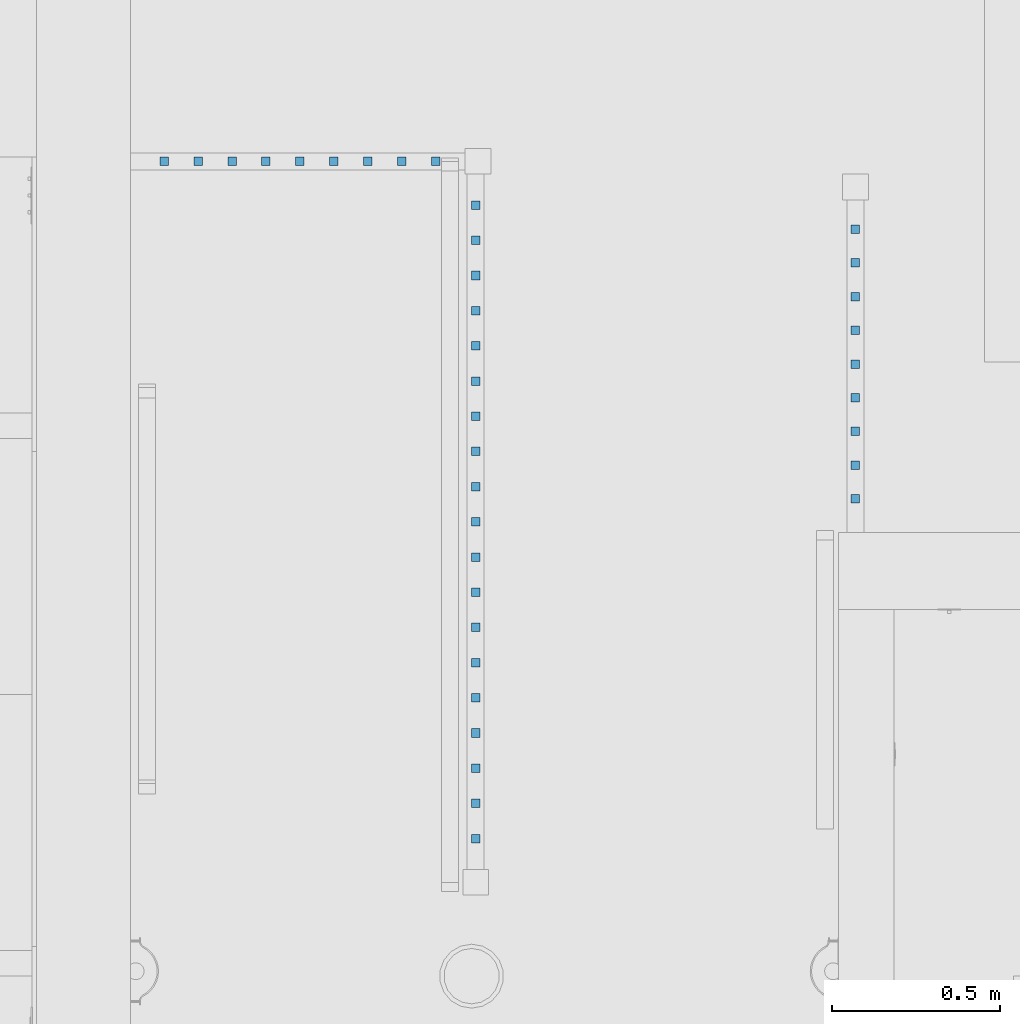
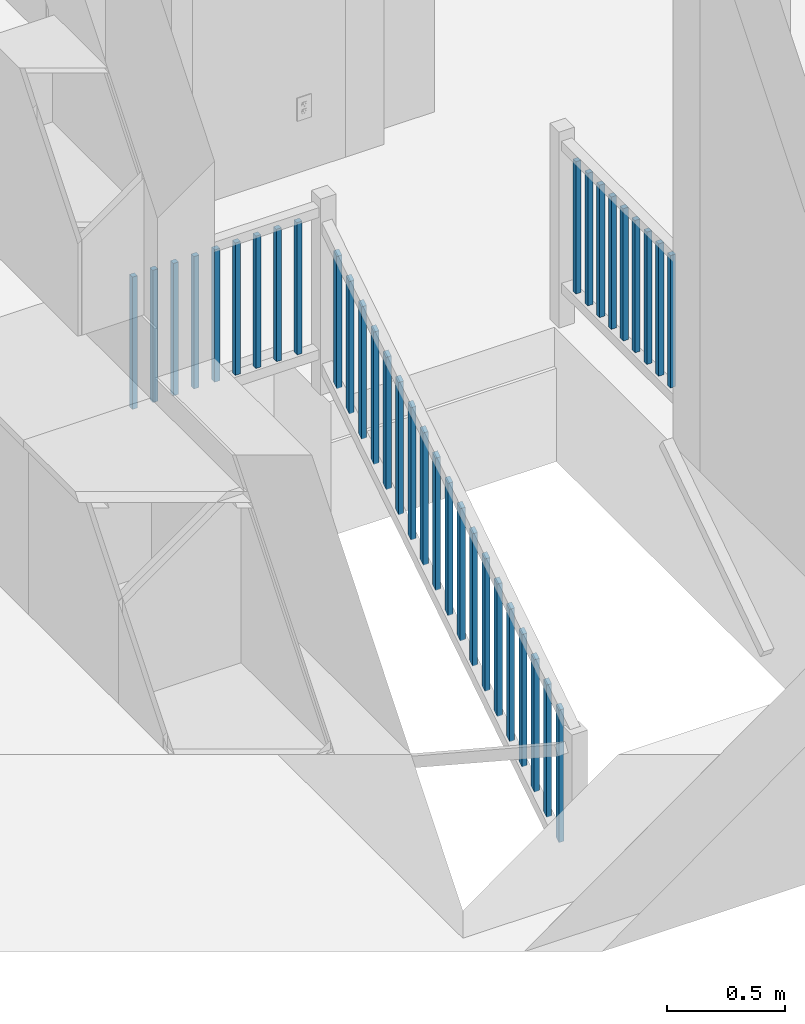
# One storey, part 7 of 103: 37 building element parts, 3 elements without a shape of their own.
"""IFC2X3 building model written with IfcOpenShell, lengths in inches."""

from ifc_helpers import new_model, entity, si_unit, converted_unit, derived_unit, money_unit, direction, frame, origin_with_axes, place, context, subcontext, project, spatial, faceted_brep, material, type_object, element, aggregate, save


model = new_model("IFC2X3")

# Units and contexts
model_context = context("Model", 3, precision=0.00039370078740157, world=origin_with_axes(), true_north=direction((0.0, 1.0)))
plan_context = context("Plan", 3, precision=0.00039370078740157, world=origin_with_axes(), true_north=direction((0.0, 1.0)))
body_context = subcontext(model_context, "Body", "Model", "MODEL_VIEW")
ifc_project = project(units=[converted_unit("LENGTHUNIT", "INCH", entity("IfcPositiveLengthMeasure", 0.0254), si_unit("LENGTHUNIT", "METRE"), dimensions=[1, 0, 0, 0, 0, 0, 0]), converted_unit("AREAUNIT", "SQUARE_FOOT", entity("IfcPositiveLengthMeasure", 0.09290304), si_unit("AREAUNIT", "SQUARE_METRE"), dimensions=[2, 0, 0, 0, 0, 0, 0]), si_unit("PLANEANGLEUNIT", "RADIAN"), si_unit("SOLIDANGLEUNIT", "STERADIAN"), money_unit("USD"), converted_unit("TIMEUNIT", "Year", entity("IfcTimeMeasure", 31557600.0), si_unit("TIMEUNIT", "SECOND"), dimensions=[0, 0, 1, 0, 0, 0, 0]), si_unit("MASSUNIT", "GRAM", prefix="KILO"), si_unit("THERMODYNAMICTEMPERATUREUNIT", "DEGREE_CELSIUS"), si_unit("LUMINOUSINTENSITYUNIT", "LUMEN"), si_unit("ENERGYUNIT", "JOULE", prefix="MEGA"), derived_unit("SPECIFICHEATCAPACITYUNIT", [(si_unit("ENERGYUNIT", "JOULE"), 1), (si_unit("MASSUNIT", "GRAM", prefix="KILO"), -1), (si_unit("THERMODYNAMICTEMPERATUREUNIT", "KELVIN"), -1)])], contexts=[model_context, plan_context])

# Site, building, storey
site_placement = place(None, origin_with_axes())
site = spatial("IfcSite", under=ifc_project, at=site_placement, Name="Site", CompositionType="ELEMENT")
building_placement = place(site_placement, origin_with_axes())
building = spatial("IfcBuilding", under=site, at=building_placement, Name="Building", CompositionType="ELEMENT")
storey_placement = place(building_placement, frame((0.0, 0.0, 127.9999999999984), z_axis=(0.0, 0.0, 1.0), x_axis=(1.0, 0.0, 0.0)))
storey = spatial("IfcBuildingStorey", under=building, at=storey_placement, Name="Second Floor", CompositionType="ELEMENT", Elevation=128.0)

# Proxy, building element parts
building_element_proxy_type = type_object("IfcBuildingElementProxyType", Name="Railing Type", PredefinedType="NOTDEFINED")
proxy_1_placement = place(storey_placement, frame((161.4999999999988, 129.9999999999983, 0.0), z_axis=(0.0, 0.0, 1.0), x_axis=(1.0, 0.0, 0.0)))
proxy_1 = element("IfcBuildingElementProxy", 1, at=proxy_1_placement, inside=storey, type_object=building_element_proxy_type, Name="RA-07")
ifc_material = material(Name="Wood - Trim")
building_element_part_1_placement = place(proxy_1_placement, origin_with_axes())
building_element_part_1 = element("IfcBuildingElementPart", 2, at=building_element_part_1_placement, material=ifc_material, Name="Wood - Trim", context=body_context, shape_type="Brep", body=[
    faceted_brep([(4.474999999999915, 1.499999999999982, 8.999999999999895), (4.474999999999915, 2.499999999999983, 8.999999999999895), (4.474999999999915, 2.499999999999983, 35.99999999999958), (4.474999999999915, 1.499999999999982, 35.99999999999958), (3.47499999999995, 1.499999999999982, 8.999999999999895), (3.47499999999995, 2.499999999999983, 8.999999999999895), (3.47499999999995, 2.499999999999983, 35.99999999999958), (3.47499999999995, 1.499999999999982, 35.99999999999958)], [[[0, 1, 2, 3]], [[0, 4, 5, 1]], [[1, 5, 6, 2]], [[3, 2, 6, 7]], [[4, 0, 3, 7]], [[5, 4, 7, 6]]]),
])
building_element_part_2_placement = place(proxy_1_placement, origin_with_axes())
building_element_part_2 = element("IfcBuildingElementPart", 3, at=building_element_part_2_placement, material=ifc_material, Name="Wood - Trim", context=body_context, shape_type="Brep", body=[
    faceted_brep([(8.449999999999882, 1.499999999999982, 8.999999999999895), (8.449999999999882, 2.499999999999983, 8.999999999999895), (8.449999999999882, 2.499999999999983, 35.99999999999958), (8.449999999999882, 1.499999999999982, 35.99999999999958), (7.449999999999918, 1.499999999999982, 8.999999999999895), (7.449999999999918, 2.499999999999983, 8.999999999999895), (7.449999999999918, 2.499999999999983, 35.99999999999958), (7.449999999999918, 1.499999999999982, 35.99999999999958)], [[[0, 1, 2, 3]], [[0, 4, 5, 1]], [[1, 5, 6, 2]], [[3, 2, 6, 7]], [[4, 0, 3, 7]], [[5, 4, 7, 6]]]),
])
building_element_part_3_placement = place(proxy_1_placement, origin_with_axes())
building_element_part_3 = element("IfcBuildingElementPart", 4, at=building_element_part_3_placement, material=ifc_material, Name="Wood - Trim", context=body_context, shape_type="Brep", body=[
    faceted_brep([(12.42499999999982, 1.499999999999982, 8.999999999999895), (12.42499999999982, 2.499999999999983, 8.999999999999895), (12.42499999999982, 2.499999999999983, 35.99999999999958), (12.42499999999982, 1.499999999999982, 35.99999999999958), (11.42499999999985, 1.499999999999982, 8.999999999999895), (11.42499999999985, 2.499999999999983, 8.999999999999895), (11.42499999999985, 2.499999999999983, 35.99999999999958), (11.42499999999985, 1.499999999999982, 35.99999999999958)], [[[0, 1, 2, 3]], [[0, 4, 5, 1]], [[1, 5, 6, 2]], [[3, 2, 6, 7]], [[4, 0, 3, 7]], [[5, 4, 7, 6]]]),
])
building_element_part_4_placement = place(proxy_1_placement, origin_with_axes())
building_element_part_4 = element("IfcBuildingElementPart", 5, at=building_element_part_4_placement, material=ifc_material, Name="Wood - Trim", context=body_context, shape_type="Brep", body=[
    faceted_brep([(16.39999999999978, 1.499999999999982, 8.999999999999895), (16.39999999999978, 2.499999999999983, 8.999999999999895), (16.39999999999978, 2.499999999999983, 35.99999999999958), (16.39999999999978, 1.499999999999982, 35.99999999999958), (15.39999999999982, 1.499999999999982, 8.999999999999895), (15.39999999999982, 2.499999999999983, 8.999999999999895), (15.39999999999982, 2.499999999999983, 35.99999999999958), (15.39999999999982, 1.499999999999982, 35.99999999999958)], [[[0, 1, 2, 3]], [[0, 4, 5, 1]], [[1, 5, 6, 2]], [[3, 2, 6, 7]], [[4, 0, 3, 7]], [[5, 4, 7, 6]]]),
])
building_element_part_5_placement = place(proxy_1_placement, origin_with_axes())
building_element_part_5 = element("IfcBuildingElementPart", 6, at=building_element_part_5_placement, material=ifc_material, Name="Wood - Trim", context=body_context, shape_type="Brep", body=[
    faceted_brep([(20.37499999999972, 1.499999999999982, 8.999999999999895), (20.37499999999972, 2.499999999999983, 8.999999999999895), (20.37499999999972, 2.499999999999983, 35.99999999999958), (20.37499999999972, 1.499999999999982, 35.99999999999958), (19.37499999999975, 1.499999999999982, 8.999999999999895), (19.37499999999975, 2.499999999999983, 8.999999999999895), (19.37499999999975, 2.499999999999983, 35.99999999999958), (19.37499999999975, 1.499999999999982, 35.99999999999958)], [[[0, 1, 2, 3]], [[0, 4, 5, 1]], [[1, 5, 6, 2]], [[3, 2, 6, 7]], [[4, 0, 3, 7]], [[5, 4, 7, 6]]]),
])
building_element_part_6_placement = place(proxy_1_placement, origin_with_axes())
building_element_part_6 = element("IfcBuildingElementPart", 7, at=building_element_part_6_placement, material=ifc_material, Name="Wood - Trim", context=body_context, shape_type="Brep", body=[
    faceted_brep([(24.34999999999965, 1.499999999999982, 8.999999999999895), (24.34999999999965, 2.499999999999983, 8.999999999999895), (24.34999999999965, 2.499999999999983, 35.99999999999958), (24.34999999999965, 1.499999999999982, 35.99999999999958), (23.34999999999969, 1.499999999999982, 8.999999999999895), (23.34999999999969, 2.499999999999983, 8.999999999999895), (23.34999999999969, 2.499999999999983, 35.99999999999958), (23.34999999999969, 1.499999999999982, 35.99999999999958)], [[[0, 1, 2, 3]], [[0, 4, 5, 1]], [[1, 5, 6, 2]], [[3, 2, 6, 7]], [[4, 0, 3, 7]], [[5, 4, 7, 6]]]),
])
building_element_part_7_placement = place(proxy_1_placement, origin_with_axes())
building_element_part_7 = element("IfcBuildingElementPart", 8, at=building_element_part_7_placement, material=ifc_material, Name="Wood - Trim", context=body_context, shape_type="Brep", body=[
    faceted_brep([(28.32499999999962, 1.499999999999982, 8.999999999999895), (28.32499999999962, 2.499999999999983, 8.999999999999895), (28.32499999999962, 2.499999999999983, 35.99999999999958), (28.32499999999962, 1.499999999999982, 35.99999999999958), (27.32499999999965, 1.499999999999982, 8.999999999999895), (27.32499999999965, 2.499999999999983, 8.999999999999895), (27.32499999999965, 2.499999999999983, 35.99999999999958), (27.32499999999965, 1.499999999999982, 35.99999999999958)], [[[0, 1, 2, 3]], [[0, 4, 5, 1]], [[1, 5, 6, 2]], [[3, 2, 6, 7]], [[4, 0, 3, 7]], [[5, 4, 7, 6]]]),
])
building_element_part_8_placement = place(proxy_1_placement, origin_with_axes())
building_element_part_8 = element("IfcBuildingElementPart", 9, at=building_element_part_8_placement, material=ifc_material, Name="Wood - Trim", context=body_context, shape_type="Brep", body=[
    faceted_brep([(32.29999999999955, 1.499999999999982, 8.999999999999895), (32.29999999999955, 2.499999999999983, 8.999999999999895), (32.29999999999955, 2.499999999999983, 35.99999999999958), (32.29999999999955, 1.499999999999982, 35.99999999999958), (31.29999999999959, 1.499999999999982, 8.999999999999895), (31.29999999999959, 2.499999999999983, 8.999999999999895), (31.29999999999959, 2.499999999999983, 35.99999999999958), (31.29999999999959, 1.499999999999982, 35.99999999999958)], [[[0, 1, 2, 3]], [[0, 4, 5, 1]], [[1, 5, 6, 2]], [[3, 2, 6, 7]], [[4, 0, 3, 7]], [[5, 4, 7, 6]]]),
])
building_element_part_9_placement = place(proxy_1_placement, origin_with_axes())
building_element_part_9 = element("IfcBuildingElementPart", 10, at=building_element_part_9_placement, material=ifc_material, Name="Wood - Trim", context=body_context, shape_type="Brep", body=[
    faceted_brep([(36.27499999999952, 1.499999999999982, 8.999999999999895), (36.27499999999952, 2.499999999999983, 8.999999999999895), (36.27499999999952, 2.499999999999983, 35.99999999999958), (36.27499999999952, 1.499999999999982, 35.99999999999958), (35.27499999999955, 1.499999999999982, 8.999999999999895), (35.27499999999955, 2.499999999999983, 8.999999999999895), (35.27499999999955, 2.499999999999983, 35.99999999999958), (35.27499999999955, 1.499999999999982, 35.99999999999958)], [[[0, 1, 2, 3]], [[0, 4, 5, 1]], [[1, 5, 6, 2]], [[3, 2, 6, 7]], [[4, 0, 3, 7]], [[5, 4, 7, 6]]]),
])
aggregate(proxy_1, [building_element_part_1, building_element_part_2, building_element_part_3, building_element_part_4, building_element_part_5, building_element_part_6, building_element_part_7, building_element_part_8, building_element_part_9])

proxy_2_placement = place(storey_placement, frame((199.9703548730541, 131.4643714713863, -55.99999999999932), z_axis=(0.0, 0.0, 1.0), x_axis=(0.0, -1.0, 0.0)))
proxy_2 = element("IfcBuildingElementProxy", 11, at=proxy_2_placement, inside=storey, type_object=building_element_proxy_type, Name="RA-07")
building_element_part_10_placement = place(proxy_2_placement, origin_with_axes())
building_element_part_10 = element("IfcBuildingElementPart", 12, at=building_element_part_10_placement, material=ifc_material, Name="Wood - Trim", context=body_context, shape_type="Brep", body=[
    faceted_brep([(5.088670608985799, 1.499999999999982, 59.53667919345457), (5.088670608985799, 2.499999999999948, 59.53667919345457), (5.088670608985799, 2.499999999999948, 86.53667919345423), (5.088670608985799, 1.499999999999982, 86.53667919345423), (4.088670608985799, 1.499999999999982, 60.17739209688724), (4.088670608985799, 2.499999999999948, 60.17739209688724), (4.088670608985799, 2.499999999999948, 87.1773920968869), (4.088670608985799, 1.499999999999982, 87.1773920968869)], [[[0, 1, 2, 3]], [[0, 4, 5, 1]], [[1, 5, 6, 2]], [[3, 2, 6, 7]], [[4, 0, 3, 7]], [[5, 4, 7, 6]]]),
])
building_element_part_11_placement = place(proxy_2_placement, origin_with_axes())
building_element_part_11 = element("IfcBuildingElementPart", 13, at=building_element_part_11_placement, material=ifc_material, Name="Wood - Trim", context=body_context, shape_type="Brep", body=[
    faceted_brep([(9.213707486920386, 1.499999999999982, 56.89371483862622), (9.213707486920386, 2.499999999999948, 56.89371483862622), (9.213707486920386, 2.499999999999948, 83.8937148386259), (9.213707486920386, 1.499999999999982, 83.8937148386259), (8.213707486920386, 1.499999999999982, 57.5344277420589), (8.213707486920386, 2.499999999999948, 57.5344277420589), (8.213707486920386, 2.499999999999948, 84.53442774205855), (8.213707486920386, 1.499999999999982, 84.53442774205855)], [[[0, 1, 2, 3]], [[0, 4, 5, 1]], [[1, 5, 6, 2]], [[3, 2, 6, 7]], [[4, 0, 3, 7]], [[5, 4, 7, 6]]]),
])
building_element_part_12_placement = place(proxy_2_placement, origin_with_axes())
building_element_part_12 = element("IfcBuildingElementPart", 14, at=building_element_part_12_placement, material=ifc_material, Name="Wood - Trim", context=body_context, shape_type="Brep", body=[
    faceted_brep([(13.33874436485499, 1.499999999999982, 54.2507504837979), (13.33874436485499, 2.499999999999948, 54.2507504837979), (13.33874436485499, 2.499999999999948, 81.25075048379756), (13.33874436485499, 1.499999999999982, 81.25075048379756), (12.33874436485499, 1.499999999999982, 54.89146338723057), (12.33874436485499, 2.499999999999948, 54.89146338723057), (12.33874436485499, 2.499999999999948, 81.89146338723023), (12.33874436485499, 1.499999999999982, 81.89146338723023)], [[[0, 1, 2, 3]], [[0, 4, 5, 1]], [[1, 5, 6, 2]], [[3, 2, 6, 7]], [[4, 0, 3, 7]], [[5, 4, 7, 6]]]),
])
building_element_part_13_placement = place(proxy_2_placement, origin_with_axes())
building_element_part_13 = element("IfcBuildingElementPart", 15, at=building_element_part_13_placement, material=ifc_material, Name="Wood - Trim", context=body_context, shape_type="Brep", body=[
    faceted_brep([(17.46378124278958, 1.499999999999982, 51.60778612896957), (17.46378124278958, 2.499999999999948, 51.60778612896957), (17.46378124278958, 2.499999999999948, 78.60778612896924), (17.46378124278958, 1.499999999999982, 78.60778612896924), (16.46378124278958, 1.499999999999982, 52.24849903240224), (16.46378124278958, 2.499999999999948, 52.24849903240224), (16.46378124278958, 2.499999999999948, 79.24849903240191), (16.46378124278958, 1.499999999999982, 79.24849903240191)], [[[0, 1, 2, 3]], [[0, 4, 5, 1]], [[1, 5, 6, 2]], [[3, 2, 6, 7]], [[4, 0, 3, 7]], [[5, 4, 7, 6]]]),
])
building_element_part_14_placement = place(proxy_2_placement, origin_with_axes())
building_element_part_14 = element("IfcBuildingElementPart", 16, at=building_element_part_14_placement, material=ifc_material, Name="Wood - Trim", context=body_context, shape_type="Brep", body=[
    faceted_brep([(21.58881812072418, 1.499999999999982, 48.96482177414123), (21.58881812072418, 2.499999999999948, 48.96482177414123), (21.58881812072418, 2.499999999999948, 75.96482177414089), (21.58881812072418, 1.499999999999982, 75.96482177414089), (20.58881812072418, 1.499999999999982, 49.60553467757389), (20.58881812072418, 2.499999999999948, 49.60553467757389), (20.58881812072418, 2.499999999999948, 76.60553467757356), (20.58881812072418, 1.499999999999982, 76.60553467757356)], [[[0, 1, 2, 3]], [[0, 4, 5, 1]], [[1, 5, 6, 2]], [[3, 2, 6, 7]], [[4, 0, 3, 7]], [[5, 4, 7, 6]]]),
])
building_element_part_15_placement = place(proxy_2_placement, origin_with_axes())
building_element_part_15 = element("IfcBuildingElementPart", 17, at=building_element_part_15_placement, material=ifc_material, Name="Wood - Trim", context=body_context, shape_type="Brep", body=[
    faceted_brep([(25.71385499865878, 1.499999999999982, 46.3218574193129), (25.71385499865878, 2.499999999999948, 46.3218574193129), (25.71385499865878, 2.499999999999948, 73.32185741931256), (25.71385499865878, 1.499999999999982, 73.32185741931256), (24.71385499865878, 1.499999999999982, 46.96257032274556), (24.71385499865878, 2.499999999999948, 46.96257032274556), (24.71385499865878, 2.499999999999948, 73.96257032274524), (24.71385499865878, 1.499999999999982, 73.96257032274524)], [[[0, 1, 2, 3]], [[0, 4, 5, 1]], [[1, 5, 6, 2]], [[3, 2, 6, 7]], [[4, 0, 3, 7]], [[5, 4, 7, 6]]]),
])
building_element_part_16_placement = place(proxy_2_placement, origin_with_axes())
building_element_part_16 = element("IfcBuildingElementPart", 18, at=building_element_part_16_placement, material=ifc_material, Name="Wood - Trim", context=body_context, shape_type="Brep", body=[
    faceted_brep([(29.83889187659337, 1.499999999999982, 43.67889306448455), (29.83889187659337, 2.499999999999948, 43.67889306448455), (29.83889187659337, 2.499999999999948, 70.67889306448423), (29.83889187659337, 1.499999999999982, 70.67889306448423), (28.83889187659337, 1.499999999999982, 44.31960596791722), (28.83889187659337, 2.499999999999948, 44.31960596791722), (28.83889187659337, 2.499999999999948, 71.31960596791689), (28.83889187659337, 1.499999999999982, 71.31960596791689)], [[[0, 1, 2, 3]], [[0, 4, 5, 1]], [[1, 5, 6, 2]], [[3, 2, 6, 7]], [[4, 0, 3, 7]], [[5, 4, 7, 6]]]),
])
building_element_part_17_placement = place(proxy_2_placement, origin_with_axes())
building_element_part_17 = element("IfcBuildingElementPart", 19, at=building_element_part_17_placement, material=ifc_material, Name="Wood - Trim", context=body_context, shape_type="Brep", body=[
    faceted_brep([(33.96392875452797, 1.499999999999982, 41.03592870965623), (33.96392875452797, 2.499999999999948, 41.03592870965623), (33.96392875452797, 2.499999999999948, 68.03592870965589), (33.96392875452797, 1.499999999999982, 68.03592870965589), (32.96392875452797, 1.499999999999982, 41.6766416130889), (32.96392875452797, 2.499999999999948, 41.6766416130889), (32.96392875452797, 2.499999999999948, 68.67664161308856), (32.96392875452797, 1.499999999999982, 68.67664161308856)], [[[0, 1, 2, 3]], [[0, 4, 5, 1]], [[1, 5, 6, 2]], [[3, 2, 6, 7]], [[4, 0, 3, 7]], [[5, 4, 7, 6]]]),
])
building_element_part_18_placement = place(proxy_2_placement, origin_with_axes())
building_element_part_18 = element("IfcBuildingElementPart", 20, at=building_element_part_18_placement, material=ifc_material, Name="Wood - Trim", context=body_context, shape_type="Brep", body=[
    faceted_brep([(38.08896563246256, 1.500000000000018, 38.3929643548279), (38.08896563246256, 2.499999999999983, 38.3929643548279), (38.08896563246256, 2.499999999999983, 65.39296435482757), (38.08896563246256, 1.500000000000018, 65.39296435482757), (37.08896563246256, 1.500000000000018, 39.03367725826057), (37.08896563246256, 2.499999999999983, 39.03367725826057), (37.08896563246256, 2.499999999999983, 66.03367725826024), (37.08896563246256, 1.500000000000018, 66.03367725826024)], [[[0, 1, 2, 3]], [[0, 4, 5, 1]], [[1, 5, 6, 2]], [[3, 2, 6, 7]], [[4, 0, 3, 7]], [[5, 4, 7, 6]]]),
])
building_element_part_19_placement = place(proxy_2_placement, origin_with_axes())
building_element_part_19 = element("IfcBuildingElementPart", 21, at=building_element_part_19_placement, material=ifc_material, Name="Wood - Trim", context=body_context, shape_type="Brep", body=[
    faceted_brep([(42.21400251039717, 1.500000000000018, 35.74999999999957), (42.21400251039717, 2.499999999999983, 35.74999999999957), (42.21400251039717, 2.499999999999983, 62.74999999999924), (42.21400251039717, 1.500000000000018, 62.74999999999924), (41.21400251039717, 1.500000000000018, 36.39071290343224), (41.21400251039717, 2.499999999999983, 36.39071290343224), (41.21400251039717, 2.499999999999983, 63.39071290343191), (41.21400251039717, 1.500000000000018, 63.39071290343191)], [[[0, 1, 2, 3]], [[0, 4, 5, 1]], [[1, 5, 6, 2]], [[3, 2, 6, 7]], [[4, 0, 3, 7]], [[5, 4, 7, 6]]]),
])
building_element_part_20_placement = place(proxy_2_placement, origin_with_axes())
building_element_part_20 = element("IfcBuildingElementPart", 22, at=building_element_part_20_placement, material=ifc_material, Name="Wood - Trim", context=body_context, shape_type="Brep", body=[
    faceted_brep([(46.33903938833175, 1.499999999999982, 33.10703564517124), (46.33903938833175, 2.499999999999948, 33.10703564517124), (46.33903938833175, 2.499999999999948, 60.10703564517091), (46.33903938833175, 1.499999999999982, 60.10703564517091), (45.33903938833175, 1.499999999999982, 33.74774854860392), (45.33903938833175, 2.499999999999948, 33.74774854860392), (45.33903938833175, 2.499999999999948, 60.74774854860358), (45.33903938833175, 1.499999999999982, 60.74774854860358)], [[[0, 1, 2, 3]], [[0, 4, 5, 1]], [[1, 5, 6, 2]], [[3, 2, 6, 7]], [[4, 0, 3, 7]], [[5, 4, 7, 6]]]),
])
building_element_part_21_placement = place(proxy_2_placement, origin_with_axes())
building_element_part_21 = element("IfcBuildingElementPart", 23, at=building_element_part_21_placement, material=ifc_material, Name="Wood - Trim", context=body_context, shape_type="Brep", body=[
    faceted_brep([(50.46407626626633, 1.499999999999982, 30.4640712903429), (50.46407626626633, 2.499999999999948, 30.4640712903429), (50.46407626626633, 2.499999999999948, 57.46407129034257), (50.46407626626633, 1.499999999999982, 57.46407129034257), (49.46407626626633, 1.499999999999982, 31.10478419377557), (49.46407626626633, 2.499999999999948, 31.10478419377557), (49.46407626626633, 2.499999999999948, 58.10478419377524), (49.46407626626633, 1.499999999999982, 58.10478419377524)], [[[0, 1, 2, 3]], [[0, 4, 5, 1]], [[1, 5, 6, 2]], [[3, 2, 6, 7]], [[4, 0, 3, 7]], [[5, 4, 7, 6]]]),
])
building_element_part_22_placement = place(proxy_2_placement, origin_with_axes())
building_element_part_22 = element("IfcBuildingElementPart", 24, at=building_element_part_22_placement, material=ifc_material, Name="Wood - Trim", context=body_context, shape_type="Brep", body=[
    faceted_brep([(54.58911314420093, 1.499999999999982, 27.82110693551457), (54.58911314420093, 2.499999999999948, 27.82110693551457), (54.58911314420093, 2.499999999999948, 54.82110693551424), (54.58911314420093, 1.499999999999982, 54.82110693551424), (53.58911314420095, 1.499999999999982, 28.46181983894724), (53.58911314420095, 2.499999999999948, 28.46181983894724), (53.58911314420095, 2.499999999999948, 55.46181983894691), (53.58911314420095, 1.499999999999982, 55.46181983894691)], [[[0, 1, 2, 3]], [[0, 4, 5, 1]], [[1, 5, 6, 2]], [[3, 2, 6, 7]], [[4, 0, 3, 7]], [[5, 4, 7, 6]]]),
])
building_element_part_23_placement = place(proxy_2_placement, origin_with_axes())
building_element_part_23 = element("IfcBuildingElementPart", 25, at=building_element_part_23_placement, material=ifc_material, Name="Wood - Trim", context=body_context, shape_type="Brep", body=[
    faceted_brep([(58.71415002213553, 1.499999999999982, 25.17814258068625), (58.71415002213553, 2.499999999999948, 25.17814258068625), (58.71415002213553, 2.499999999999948, 52.17814258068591), (58.71415002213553, 1.499999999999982, 52.17814258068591), (57.71415002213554, 1.499999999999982, 25.81885548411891), (57.71415002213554, 2.499999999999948, 25.81885548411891), (57.71415002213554, 2.499999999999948, 52.81885548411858), (57.71415002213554, 1.499999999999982, 52.81885548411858)], [[[0, 1, 2, 3]], [[0, 4, 5, 1]], [[1, 5, 6, 2]], [[3, 2, 6, 7]], [[4, 0, 3, 7]], [[5, 4, 7, 6]]]),
])
building_element_part_24_placement = place(proxy_2_placement, origin_with_axes())
building_element_part_24 = element("IfcBuildingElementPart", 26, at=building_element_part_24_placement, material=ifc_material, Name="Wood - Trim", context=body_context, shape_type="Brep", body=[
    faceted_brep([(62.83918690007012, 1.499999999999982, 22.5351782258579), (62.83918690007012, 2.499999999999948, 22.5351782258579), (62.83918690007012, 2.499999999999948, 49.53517822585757), (62.83918690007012, 1.499999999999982, 49.53517822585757), (61.83918690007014, 1.499999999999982, 23.17589112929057), (61.83918690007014, 2.499999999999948, 23.17589112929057), (61.83918690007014, 2.499999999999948, 50.17589112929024), (61.83918690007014, 1.499999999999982, 50.17589112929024)], [[[0, 1, 2, 3]], [[0, 4, 5, 1]], [[1, 5, 6, 2]], [[3, 2, 6, 7]], [[4, 0, 3, 7]], [[5, 4, 7, 6]]]),
])
building_element_part_25_placement = place(proxy_2_placement, origin_with_axes())
building_element_part_25 = element("IfcBuildingElementPart", 27, at=building_element_part_25_placement, material=ifc_material, Name="Wood - Trim", context=body_context, shape_type="Brep", body=[
    faceted_brep([(66.96422377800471, 1.499999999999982, 19.89221387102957), (66.96422377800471, 2.499999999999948, 19.89221387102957), (66.96422377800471, 2.499999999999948, 46.89221387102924), (66.96422377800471, 1.499999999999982, 46.89221387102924), (65.96422377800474, 1.499999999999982, 20.53292677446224), (65.96422377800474, 2.499999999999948, 20.53292677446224), (65.96422377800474, 2.499999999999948, 47.53292677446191), (65.96422377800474, 1.499999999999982, 47.53292677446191)], [[[0, 1, 2, 3]], [[0, 4, 5, 1]], [[1, 5, 6, 2]], [[3, 2, 6, 7]], [[4, 0, 3, 7]], [[5, 4, 7, 6]]]),
])
building_element_part_26_placement = place(proxy_2_placement, origin_with_axes())
building_element_part_26 = element("IfcBuildingElementPart", 28, at=building_element_part_26_placement, material=ifc_material, Name="Wood - Trim", context=body_context, shape_type="Brep", body=[
    faceted_brep([(71.08926065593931, 1.499999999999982, 17.24924951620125), (71.08926065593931, 2.499999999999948, 17.24924951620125), (71.08926065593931, 2.499999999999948, 44.24924951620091), (71.08926065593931, 1.499999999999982, 44.24924951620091), (70.08926065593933, 1.499999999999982, 17.88996241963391), (70.08926065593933, 2.499999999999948, 17.88996241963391), (70.08926065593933, 2.499999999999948, 44.88996241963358), (70.08926065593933, 1.499999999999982, 44.88996241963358)], [[[0, 1, 2, 3]], [[0, 4, 5, 1]], [[1, 5, 6, 2]], [[3, 2, 6, 7]], [[4, 0, 3, 7]], [[5, 4, 7, 6]]]),
])
building_element_part_27_placement = place(proxy_2_placement, origin_with_axes())
building_element_part_27 = element("IfcBuildingElementPart", 29, at=building_element_part_27_placement, material=ifc_material, Name="Wood - Trim", context=body_context, shape_type="Brep", body=[
    faceted_brep([(75.21429753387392, 1.499999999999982, 14.6062851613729), (75.21429753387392, 2.499999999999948, 14.6062851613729), (75.21429753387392, 2.499999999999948, 41.60628516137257), (75.21429753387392, 1.499999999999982, 41.60628516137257), (74.21429753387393, 1.499999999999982, 15.24699806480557), (74.21429753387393, 2.499999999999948, 15.24699806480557), (74.21429753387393, 2.499999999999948, 42.24699806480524), (74.21429753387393, 1.499999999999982, 42.24699806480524)], [[[0, 1, 2, 3]], [[0, 4, 5, 1]], [[1, 5, 6, 2]], [[3, 2, 6, 7]], [[4, 0, 3, 7]], [[5, 4, 7, 6]]]),
])
building_element_part_28_placement = place(proxy_2_placement, origin_with_axes())
building_element_part_28 = element("IfcBuildingElementPart", 30, at=building_element_part_28_placement, material=ifc_material, Name="Wood - Trim", context=body_context, shape_type="Brep", body=[
    faceted_brep([(79.33933441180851, 1.499999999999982, 11.96332080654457), (79.33933441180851, 2.499999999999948, 11.96332080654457), (79.33933441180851, 2.499999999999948, 38.96332080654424), (79.33933441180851, 1.499999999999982, 38.96332080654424), (78.33933441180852, 1.499999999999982, 12.60403370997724), (78.33933441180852, 2.499999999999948, 12.60403370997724), (78.33933441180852, 2.499999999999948, 39.60403370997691), (78.33933441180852, 1.499999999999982, 39.60403370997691)], [[[0, 1, 2, 3]], [[0, 4, 5, 1]], [[1, 5, 6, 2]], [[3, 2, 6, 7]], [[4, 0, 3, 7]], [[5, 4, 7, 6]]]),
])
aggregate(proxy_2, [building_element_part_10, building_element_part_11, building_element_part_12, building_element_part_13, building_element_part_14, building_element_part_15, building_element_part_16, building_element_part_17, building_element_part_18, building_element_part_19, building_element_part_20, building_element_part_21, building_element_part_22, building_element_part_23, building_element_part_24, building_element_part_25, building_element_part_26, building_element_part_27, building_element_part_28])

proxy_3_placement = place(storey_placement, frame((244.4999999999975, 88.49999999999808, 0.0), z_axis=(0.0, 0.0, 1.0), x_axis=(-1.0, 0.0, 0.0)))
proxy_3 = element("IfcBuildingElementProxy", 31, at=proxy_3_placement, inside=storey, type_object=building_element_proxy_type, Name="RA-07")
building_element_part_29_placement = place(proxy_3_placement, origin_with_axes())
building_element_part_29 = element("IfcBuildingElementPart", 32, at=building_element_part_29_placement, material=ifc_material, Name="Wood - Trim", context=body_context, shape_type="Brep", body=[
    faceted_brep([(-1.499999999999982, -4.449999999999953, 8.999999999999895), (-1.499999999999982, -4.449999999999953, 35.99999999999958), (-2.499999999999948, -4.449999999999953, 35.99999999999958), (-2.499999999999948, -4.449999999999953, 8.999999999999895), (-1.499999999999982, -3.449999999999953, 8.999999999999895), (-1.499999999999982, -3.449999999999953, 35.99999999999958), (-2.499999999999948, -3.449999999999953, 35.99999999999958), (-2.499999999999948, -3.449999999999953, 8.999999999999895)], [[[0, 1, 2, 3]], [[4, 5, 1, 0]], [[1, 5, 6, 2]], [[3, 2, 6, 7]], [[0, 3, 7, 4]], [[7, 6, 5, 4]]]),
])
building_element_part_30_placement = place(proxy_3_placement, origin_with_axes())
building_element_part_30 = element("IfcBuildingElementPart", 33, at=building_element_part_30_placement, material=ifc_material, Name="Wood - Trim", context=body_context, shape_type="Brep", body=[
    faceted_brep([(-1.499999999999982, -12.34999999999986, 8.999999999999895), (-1.499999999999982, -12.34999999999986, 35.99999999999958), (-2.499999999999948, -12.34999999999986, 35.99999999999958), (-2.499999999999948, -12.34999999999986, 8.999999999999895), (-1.499999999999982, -11.34999999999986, 8.999999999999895), (-1.499999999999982, -11.34999999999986, 35.99999999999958), (-2.499999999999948, -11.34999999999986, 35.99999999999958), (-2.499999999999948, -11.34999999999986, 8.999999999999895)], [[[0, 1, 2, 3]], [[4, 5, 1, 0]], [[1, 5, 6, 2]], [[3, 2, 6, 7]], [[0, 3, 7, 4]], [[7, 6, 5, 4]]]),
])
building_element_part_31_placement = place(proxy_3_placement, origin_with_axes())
building_element_part_31 = element("IfcBuildingElementPart", 34, at=building_element_part_31_placement, material=ifc_material, Name="Wood - Trim", context=body_context, shape_type="Brep", body=[
    faceted_brep([(-1.499999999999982, -16.29999999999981, 8.999999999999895), (-1.499999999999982, -16.29999999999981, 35.99999999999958), (-2.499999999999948, -16.29999999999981, 35.99999999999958), (-2.499999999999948, -16.29999999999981, 8.999999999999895), (-1.499999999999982, -15.29999999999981, 8.999999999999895), (-1.499999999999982, -15.29999999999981, 35.99999999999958), (-2.499999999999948, -15.29999999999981, 35.99999999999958), (-2.499999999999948, -15.29999999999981, 8.999999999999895)], [[[0, 1, 2, 3]], [[4, 5, 1, 0]], [[1, 5, 6, 2]], [[3, 2, 6, 7]], [[0, 3, 7, 4]], [[7, 6, 5, 4]]]),
])
building_element_part_32_placement = place(proxy_3_placement, origin_with_axes())
building_element_part_32 = element("IfcBuildingElementPart", 35, at=building_element_part_32_placement, material=ifc_material, Name="Wood - Trim", context=body_context, shape_type="Brep", body=[
    faceted_brep([(-1.499999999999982, -20.24999999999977, 8.999999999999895), (-1.499999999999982, -20.24999999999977, 35.99999999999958), (-2.499999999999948, -20.24999999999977, 35.99999999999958), (-2.499999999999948, -20.24999999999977, 8.999999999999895), (-1.499999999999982, -19.24999999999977, 8.999999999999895), (-1.499999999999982, -19.24999999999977, 35.99999999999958), (-2.499999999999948, -19.24999999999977, 35.99999999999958), (-2.499999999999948, -19.24999999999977, 8.999999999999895)], [[[0, 1, 2, 3]], [[4, 5, 1, 0]], [[1, 5, 6, 2]], [[3, 2, 6, 7]], [[0, 3, 7, 4]], [[7, 6, 5, 4]]]),
])
building_element_part_33_placement = place(proxy_3_placement, origin_with_axes())
building_element_part_33 = element("IfcBuildingElementPart", 36, at=building_element_part_33_placement, material=ifc_material, Name="Wood - Trim", context=body_context, shape_type="Brep", body=[
    faceted_brep([(-1.499999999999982, -24.19999999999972, 8.999999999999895), (-1.499999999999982, -24.19999999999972, 35.99999999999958), (-2.499999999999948, -24.19999999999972, 35.99999999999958), (-2.499999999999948, -24.19999999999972, 8.999999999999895), (-1.499999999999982, -23.19999999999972, 8.999999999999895), (-1.499999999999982, -23.19999999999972, 35.99999999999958), (-2.499999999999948, -23.19999999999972, 35.99999999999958), (-2.499999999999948, -23.19999999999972, 8.999999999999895)], [[[0, 1, 2, 3]], [[4, 5, 1, 0]], [[1, 5, 6, 2]], [[3, 2, 6, 7]], [[0, 3, 7, 4]], [[7, 6, 5, 4]]]),
])
building_element_part_34_placement = place(proxy_3_placement, origin_with_axes())
building_element_part_34 = element("IfcBuildingElementPart", 37, at=building_element_part_34_placement, material=ifc_material, Name="Wood - Trim", context=body_context, shape_type="Brep", body=[
    faceted_brep([(-1.499999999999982, -32.09999999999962, 8.999999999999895), (-1.499999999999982, -32.09999999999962, 35.99999999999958), (-2.499999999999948, -32.09999999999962, 35.99999999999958), (-2.499999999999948, -32.09999999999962, 8.999999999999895), (-1.499999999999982, -31.09999999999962, 8.999999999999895), (-1.499999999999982, -31.09999999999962, 35.99999999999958), (-2.499999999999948, -31.09999999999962, 35.99999999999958), (-2.499999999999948, -31.09999999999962, 8.999999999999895)], [[[0, 1, 2, 3]], [[4, 5, 1, 0]], [[1, 5, 6, 2]], [[3, 2, 6, 7]], [[0, 3, 7, 4]], [[7, 6, 5, 4]]]),
])
building_element_part_35_placement = place(proxy_3_placement, origin_with_axes())
building_element_part_35 = element("IfcBuildingElementPart", 38, at=building_element_part_35_placement, material=ifc_material, Name="Wood - Trim", context=body_context, shape_type="Brep", body=[
    faceted_brep([(-1.499999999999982, -28.14999999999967, 8.999999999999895), (-1.499999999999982, -28.14999999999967, 35.99999999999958), (-2.499999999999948, -28.14999999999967, 35.99999999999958), (-2.499999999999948, -28.14999999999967, 8.999999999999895), (-1.499999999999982, -27.14999999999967, 8.999999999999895), (-1.499999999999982, -27.14999999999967, 35.99999999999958), (-2.499999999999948, -27.14999999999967, 35.99999999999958), (-2.499999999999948, -27.14999999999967, 8.999999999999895)], [[[0, 1, 2, 3]], [[4, 5, 1, 0]], [[1, 5, 6, 2]], [[3, 2, 6, 7]], [[0, 3, 7, 4]], [[7, 6, 5, 4]]]),
])
building_element_part_36_placement = place(proxy_3_placement, origin_with_axes())
building_element_part_36 = element("IfcBuildingElementPart", 39, at=building_element_part_36_placement, material=ifc_material, Name="Wood - Trim", context=body_context, shape_type="Brep", body=[
    faceted_brep([(-1.499999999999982, -36.04999999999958, 8.999999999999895), (-1.499999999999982, -36.04999999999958, 35.99999999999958), (-2.499999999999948, -36.04999999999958, 35.99999999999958), (-2.499999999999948, -36.04999999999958, 8.999999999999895), (-1.499999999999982, -35.04999999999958, 8.999999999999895), (-1.499999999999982, -35.04999999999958, 35.99999999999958), (-2.499999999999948, -35.04999999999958, 35.99999999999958), (-2.499999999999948, -35.04999999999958, 8.999999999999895)], [[[0, 1, 2, 3]], [[4, 5, 1, 0]], [[1, 5, 6, 2]], [[3, 2, 6, 7]], [[0, 3, 7, 4]], [[7, 6, 5, 4]]]),
])
building_element_part_37_placement = place(proxy_3_placement, origin_with_axes())
building_element_part_37 = element("IfcBuildingElementPart", 40, at=building_element_part_37_placement, material=ifc_material, Name="Wood - Trim", context=body_context, shape_type="Brep", body=[
    faceted_brep([(-1.499999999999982, -8.399999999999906, 8.999999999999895), (-1.499999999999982, -8.399999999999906, 35.99999999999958), (-2.499999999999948, -8.399999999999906, 35.99999999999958), (-2.499999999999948, -8.399999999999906, 8.999999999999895), (-1.499999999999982, -7.399999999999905, 8.999999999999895), (-1.499999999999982, -7.399999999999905, 35.99999999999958), (-2.499999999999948, -7.399999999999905, 35.99999999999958), (-2.499999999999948, -7.399999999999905, 8.999999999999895)], [[[0, 1, 2, 3]], [[4, 5, 1, 0]], [[1, 5, 6, 2]], [[3, 2, 6, 7]], [[0, 3, 7, 4]], [[7, 6, 5, 4]]]),
])
aggregate(proxy_3, [building_element_part_29, building_element_part_30, building_element_part_31, building_element_part_32, building_element_part_33, building_element_part_34, building_element_part_35, building_element_part_36, building_element_part_37])

save(model, "model.ifc")
